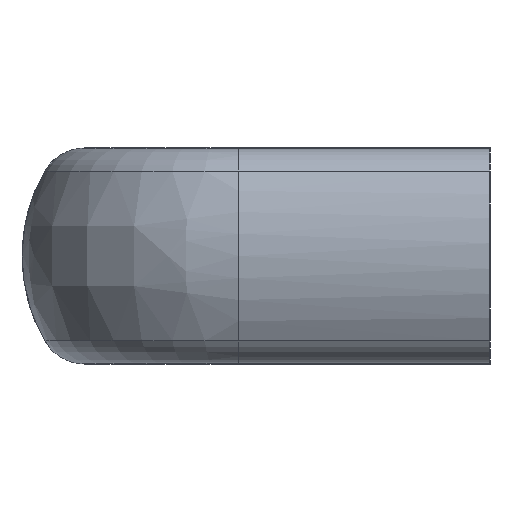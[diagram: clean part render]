
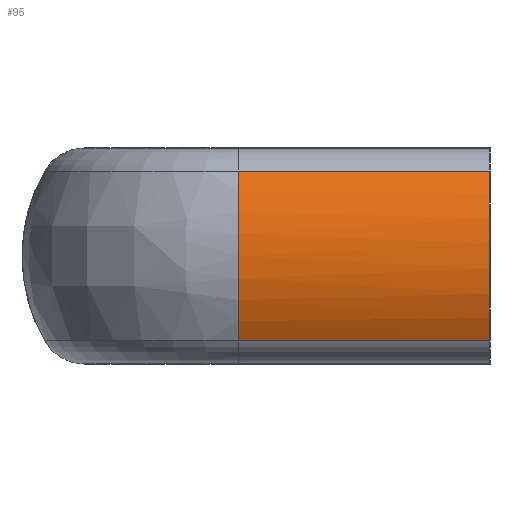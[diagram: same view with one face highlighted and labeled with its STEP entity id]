
A CAD part, left-side view. The second image highlights one B-rep face of the part: STEP entity #95.
In plain terms, the highlighted cylindrical face has radius 19.531 mm (diameter 39.062 mm), a partial arc.
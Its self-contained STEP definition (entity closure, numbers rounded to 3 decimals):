
#95 = ADVANCED_FACE( '', ( #177 ), #178, .T. );
#177 = FACE_OUTER_BOUND( '', #327, .T. );
#178 = CYLINDRICAL_SURFACE( '', #328, 19.531 );
#327 = EDGE_LOOP( '', ( #575, #576, #577, #578 ) );
#328 = AXIS2_PLACEMENT_3D( '', #579, #580, #581 );
#575 = ORIENTED_EDGE( '', *, *, #930, .T. );
#576 = ORIENTED_EDGE( '', *, *, #931, .F. );
#577 = ORIENTED_EDGE( '', *, *, #932, .F. );
#578 = ORIENTED_EDGE( '', *, *, #926, .T. );
#579 = CARTESIAN_POINT( '', ( -68.469, 0., 0. ) );
#580 = DIRECTION( '', ( 0., -1., 0. ) );
#581 = DIRECTION( '', ( 0., 0., 1. ) );
#926 = EDGE_CURVE( '', #1106, #1104, #1107, .T. );
#930 = EDGE_CURVE( '', #1104, #1111, #1112, .T. );
#931 = EDGE_CURVE( '', #1113, #1111, #1114, .T. );
#932 = EDGE_CURVE( '', #1106, #1113, #1115, .T. );
#1104 = VERTEX_POINT( '', #1386 );
#1106 = VERTEX_POINT( '', #1388 );
#1107 = LINE( '', #1389, #1390 );
#1111 = VERTEX_POINT( '', #1394 );
#1112 = CIRCLE( '', #1395, 19.531 );
#1113 = VERTEX_POINT( '', #1396 );
#1114 = LINE( '', #1397, #1398 );
#1115 = CIRCLE( '', #1399, 19.531 );
#1386 = CARTESIAN_POINT( '', ( -85.361, 29., 9.805 ) );
#1388 = CARTESIAN_POINT( '', ( -85.361, 0., 9.805 ) );
#1389 = CARTESIAN_POINT( '', ( -85.361, 0., 9.805 ) );
#1390 = VECTOR( '', #1621, 1000. );
#1394 = CARTESIAN_POINT( '', ( -85.361, 29., -9.805 ) );
#1395 = AXIS2_PLACEMENT_3D( '', #1631, #1632, #1633 );
#1396 = CARTESIAN_POINT( '', ( -85.361, 0., -9.805 ) );
#1397 = CARTESIAN_POINT( '', ( -85.361, 0., -9.805 ) );
#1398 = VECTOR( '', #1634, 1000. );
#1399 = AXIS2_PLACEMENT_3D( '', #1635, #1636, #1637 );
#1621 = DIRECTION( '', ( 0., 1., 0. ) );
#1631 = CARTESIAN_POINT( '', ( -68.469, 29., 0. ) );
#1632 = DIRECTION( '', ( 0., -1., 0. ) );
#1633 = DIRECTION( '', ( 0., 0., 1. ) );
#1634 = DIRECTION( '', ( 0., 1., 0. ) );
#1635 = CARTESIAN_POINT( '', ( -68.469, 0., 0. ) );
#1636 = DIRECTION( '', ( 0., -1., 0. ) );
#1637 = DIRECTION( '', ( 0., 0., 1. ) );
